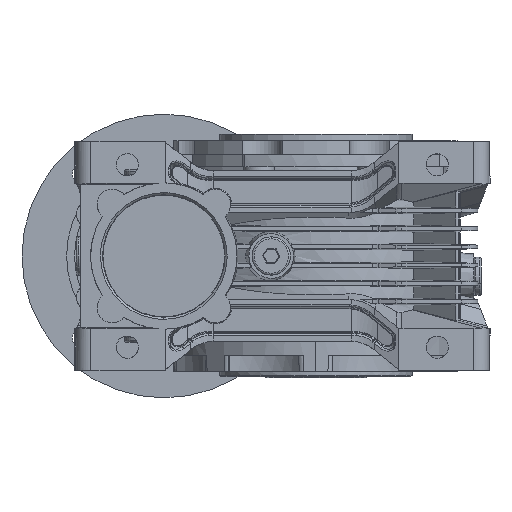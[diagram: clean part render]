
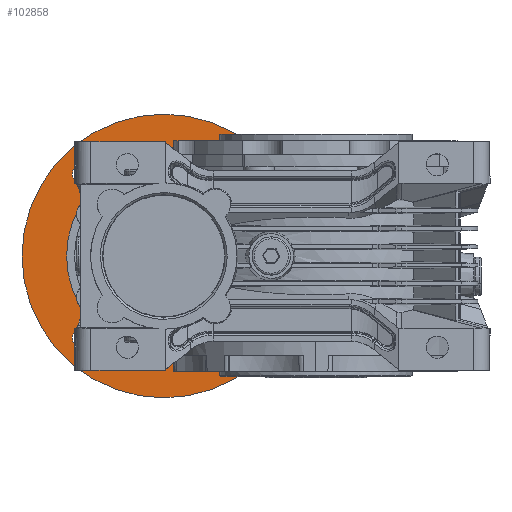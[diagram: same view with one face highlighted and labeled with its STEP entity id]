
A CAD part, front view. The second image highlights one B-rep face of the part: STEP entity #102858.
In plain terms, the highlighted planar face has unit normal (0, -1, 0).
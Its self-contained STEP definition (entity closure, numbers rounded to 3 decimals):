
#2303 = ORIENTED_EDGE ( 'NONE', *, *, #6944, .T. ) ;
#3425 = CARTESIAN_POINT ( 'NONE',  ( -34.341, 101.5, -40.659 ) ) ;
#4355 = ORIENTED_EDGE ( 'NONE', *, *, #127854, .F. ) ;
#6410 = CARTESIAN_POINT ( 'NONE',  ( -123., 101.5, 0. ) ) ;
#6944 = EDGE_CURVE ( 'NONE', #111572, #67432, #34565, .T. ) ;
#8009 = AXIS2_PLACEMENT_3D ( 'NONE', #16156, #89887, #26830 ) ;
#8998 = DIRECTION ( 'NONE',  ( -1., 0., 0. ) ) ;
#12940 = FACE_OUTER_BOUND ( 'NONE', #85886, .T. ) ;
#13198 = EDGE_CURVE ( 'NONE', #121789, #41500, #13470, .T. ) ;
#13470 = CIRCLE ( 'NONE', #65560, 4.5 ) ;
#13992 = DIRECTION ( 'NONE',  ( -1., 0., 0. ) ) ;
#15055 = DIRECTION ( 'NONE',  ( 0., -1., 0. ) ) ;
#16156 = CARTESIAN_POINT ( 'NONE',  ( -115.659, 101.5, 40.659 ) ) ;
#17865 = AXIS2_PLACEMENT_3D ( 'NONE', #135260, #72139, #8998 ) ;
#18916 = AXIS2_PLACEMENT_3D ( 'NONE', #3425, #77135, #13992 ) ;
#19546 = FACE_BOUND ( 'NONE', #66633, .T. ) ;
#20387 = CARTESIAN_POINT ( 'NONE',  ( -120.159, 101.5, -40.659 ) ) ;
#20594 = DIRECTION ( 'NONE',  ( 0., 1., 0. ) ) ;
#26830 = DIRECTION ( 'NONE',  ( -1., 0., 0. ) ) ;
#26901 = PLANE ( 'NONE',  #134532 ) ;
#27718 = VERTEX_POINT ( 'NONE', #134580 ) ;
#29322 = CARTESIAN_POINT ( 'NONE',  ( -34.341, 101.5, 40.659 ) ) ;
#30074 = VERTEX_POINT ( 'NONE', #20387 ) ;
#31427 = EDGE_CURVE ( 'NONE', #97756, #27718, #125807, .T. ) ;
#32014 = DIRECTION ( 'NONE',  ( 0., 1., 0. ) ) ;
#32311 = CARTESIAN_POINT ( 'NONE',  ( -115.659, 101.5, 40.659 ) ) ;
#34121 = CARTESIAN_POINT ( 'NONE',  ( -29.841, 101.5, 40.659 ) ) ;
#34565 = CIRCLE ( 'NONE', #80010, 4.5 ) ;
#35130 = ORIENTED_EDGE ( 'NONE', *, *, #60863, .T. ) ;
#35165 = EDGE_LOOP ( 'NONE', ( #4355, #39953 ) ) ;
#36192 = CARTESIAN_POINT ( 'NONE',  ( -75., 101.5, 0. ) ) ;
#36645 = ORIENTED_EDGE ( 'NONE', *, *, #69750, .T. ) ;
#37686 = CARTESIAN_POINT ( 'NONE',  ( -29.841, 101.5, -40.659 ) ) ;
#37959 = DIRECTION ( 'NONE',  ( 0., 1., 0. ) ) ;
#38198 = CIRCLE ( 'NONE', #105216, 4.5 ) ;
#39920 = DIRECTION ( 'NONE',  ( -1., 0., 0. ) ) ;
#39953 = ORIENTED_EDGE ( 'NONE', *, *, #31427, .F. ) ;
#40869 = CARTESIAN_POINT ( 'NONE',  ( -75., 101.5, 0. ) ) ;
#41013 = FACE_BOUND ( 'NONE', #35165, .T. ) ;
#41500 = VERTEX_POINT ( 'NONE', #43899 ) ;
#42901 = DIRECTION ( 'NONE',  ( -1., 0., 0. ) ) ;
#43899 = CARTESIAN_POINT ( 'NONE',  ( -111.159, 101.5, 40.659 ) ) ;
#46663 = CARTESIAN_POINT ( 'NONE',  ( -75., 101.5, 0. ) ) ;
#46810 = DIRECTION ( 'NONE',  ( 1., 0., 0. ) ) ;
#50234 = CIRCLE ( 'NONE', #17865, 4.5 ) ;
#51485 = DIRECTION ( 'NONE',  ( 1., 0., 0. ) ) ;
#57057 = CARTESIAN_POINT ( 'NONE',  ( -111.159, 101.5, -40.659 ) ) ;
#57186 = DIRECTION ( 'NONE',  ( 0., 1., 0. ) ) ;
#57254 = DIRECTION ( 'NONE',  ( 1., 0., 0. ) ) ;
#57434 = EDGE_LOOP ( 'NONE', ( #72662, #35130 ) ) ;
#57703 = EDGE_CURVE ( 'NONE', #93814, #121277, #70126, .T. ) ;
#58472 = CARTESIAN_POINT ( 'NONE',  ( -145., 101.5, 0. ) ) ;
#60863 = EDGE_CURVE ( 'NONE', #121277, #93814, #89382, .T. ) ;
#64604 = ORIENTED_EDGE ( 'NONE', *, *, #73151, .T. ) ;
#65560 = AXIS2_PLACEMENT_3D ( 'NONE', #32311, #105928, #42901 ) ;
#66016 = VERTEX_POINT ( 'NONE', #114253 ) ;
#66633 = EDGE_LOOP ( 'NONE', ( #109906, #36645 ) ) ;
#67187 = EDGE_CURVE ( 'NONE', #41500, #121789, #124745, .T. ) ;
#67432 = VERTEX_POINT ( 'NONE', #34121 ) ;
#69089 = FACE_BOUND ( 'NONE', #135212, .T. ) ;
#69399 = AXIS2_PLACEMENT_3D ( 'NONE', #36192, #109840, #46810 ) ;
#69750 = EDGE_CURVE ( 'NONE', #71809, #30074, #50234, .T. ) ;
#70126 = CIRCLE ( 'NONE', #18916, 4.5 ) ;
#71809 = VERTEX_POINT ( 'NONE', #57057 ) ;
#72139 = DIRECTION ( 'NONE',  ( 0., 1., 0. ) ) ;
#72662 = ORIENTED_EDGE ( 'NONE', *, *, #57703, .T. ) ;
#73151 = EDGE_CURVE ( 'NONE', #67432, #111572, #38198, .T. ) ;
#77135 = DIRECTION ( 'NONE',  ( 0., 1., 0. ) ) ;
#77346 = ORIENTED_EDGE ( 'NONE', *, *, #67187, .T. ) ;
#77398 = EDGE_CURVE ( 'NONE', #105218, #66016, #88665, .T. ) ;
#78226 = CARTESIAN_POINT ( 'NONE',  ( -75., 101.5, 0. ) ) ;
#78952 = ORIENTED_EDGE ( 'NONE', *, *, #13198, .T. ) ;
#80010 = AXIS2_PLACEMENT_3D ( 'NONE', #120238, #57186, #130869 ) ;
#83689 = CARTESIAN_POINT ( 'NONE',  ( -115.659, 101.5, -40.659 ) ) ;
#85886 = EDGE_LOOP ( 'NONE', ( #124928, #119980 ) ) ;
#86261 = EDGE_CURVE ( 'NONE', #66016, #105218, #107445, .T. ) ;
#88665 = CIRCLE ( 'NONE', #69399, 70. ) ;
#88773 = DIRECTION ( 'NONE',  ( 1., 0., 0. ) ) ;
#89382 = CIRCLE ( 'NONE', #99410, 4.5 ) ;
#89887 = DIRECTION ( 'NONE',  ( 0., 1., 0. ) ) ;
#93146 = AXIS2_PLACEMENT_3D ( 'NONE', #46663, #120297, #57254 ) ;
#93814 = VERTEX_POINT ( 'NONE', #135215 ) ;
#94215 = DIRECTION ( 'NONE',  ( -1., 0., 0. ) ) ;
#95029 = CARTESIAN_POINT ( 'NONE',  ( -34.341, 101.5, -40.659 ) ) ;
#96974 = FACE_BOUND ( 'NONE', #122329, .T. ) ;
#97756 = VERTEX_POINT ( 'NONE', #6410 ) ;
#98934 = AXIS2_PLACEMENT_3D ( 'NONE', #40869, #114520, #51485 ) ;
#99410 = AXIS2_PLACEMENT_3D ( 'NONE', #95029, #32014, #105632 ) ;
#100286 = FACE_BOUND ( 'NONE', #57434, .T. ) ;
#100952 = CARTESIAN_POINT ( 'NONE',  ( -123., 101.5, 0. ) ) ;
#102858 = ADVANCED_FACE ( 'NONE', ( #69089, #19546, #100286, #96974, #41013, #12940 ), #26901, .F. ) ;
#102950 = DIRECTION ( 'NONE',  ( 0., 1., 0. ) ) ;
#105216 = AXIS2_PLACEMENT_3D ( 'NONE', #29322, #102950, #39920 ) ;
#105218 = VERTEX_POINT ( 'NONE', #58472 ) ;
#105632 = DIRECTION ( 'NONE',  ( -1., 0., 0. ) ) ;
#105928 = DIRECTION ( 'NONE',  ( 0., 1., 0. ) ) ;
#107445 = CIRCLE ( 'NONE', #98934, 70. ) ;
#107728 = CIRCLE ( 'NONE', #122659, 4.5 ) ;
#108771 = CARTESIAN_POINT ( 'NONE',  ( -38.841, 101.5, 40.659 ) ) ;
#109840 = DIRECTION ( 'NONE',  ( 0., -1., 0. ) ) ;
#109906 = ORIENTED_EDGE ( 'NONE', *, *, #120571, .T. ) ;
#110161 = CIRCLE ( 'NONE', #93146, 48. ) ;
#111572 = VERTEX_POINT ( 'NONE', #108771 ) ;
#111594 = DIRECTION ( 'NONE',  ( -1., 0., 0. ) ) ;
#114253 = CARTESIAN_POINT ( 'NONE',  ( -5., 101.5, 0. ) ) ;
#114520 = DIRECTION ( 'NONE',  ( 0., -1., 0. ) ) ;
#119980 = ORIENTED_EDGE ( 'NONE', *, *, #77398, .T. ) ;
#120238 = CARTESIAN_POINT ( 'NONE',  ( -34.341, 101.5, 40.659 ) ) ;
#120297 = DIRECTION ( 'NONE',  ( 0., -1., 0. ) ) ;
#120571 = EDGE_CURVE ( 'NONE', #30074, #71809, #107728, .T. ) ;
#121277 = VERTEX_POINT ( 'NONE', #37686 ) ;
#121789 = VERTEX_POINT ( 'NONE', #136030 ) ;
#122329 = EDGE_LOOP ( 'NONE', ( #2303, #64604 ) ) ;
#122659 = AXIS2_PLACEMENT_3D ( 'NONE', #83689, #20594, #94215 ) ;
#124745 = CIRCLE ( 'NONE', #8009, 4.5 ) ;
#124928 = ORIENTED_EDGE ( 'NONE', *, *, #86261, .T. ) ;
#125807 = CIRCLE ( 'NONE', #132020, 48. ) ;
#127854 = EDGE_CURVE ( 'NONE', #27718, #97756, #110161, .T. ) ;
#130869 = DIRECTION ( 'NONE',  ( -1., 0., 0. ) ) ;
#132020 = AXIS2_PLACEMENT_3D ( 'NONE', #78226, #15055, #88773 ) ;
#134532 = AXIS2_PLACEMENT_3D ( 'NONE', #100952, #37959, #111594 ) ;
#134580 = CARTESIAN_POINT ( 'NONE',  ( -27., 101.5, 0. ) ) ;
#135212 = EDGE_LOOP ( 'NONE', ( #78952, #77346 ) ) ;
#135215 = CARTESIAN_POINT ( 'NONE',  ( -38.841, 101.5, -40.659 ) ) ;
#135260 = CARTESIAN_POINT ( 'NONE',  ( -115.659, 101.5, -40.659 ) ) ;
#136030 = CARTESIAN_POINT ( 'NONE',  ( -120.159, 101.5, 40.659 ) ) ;
